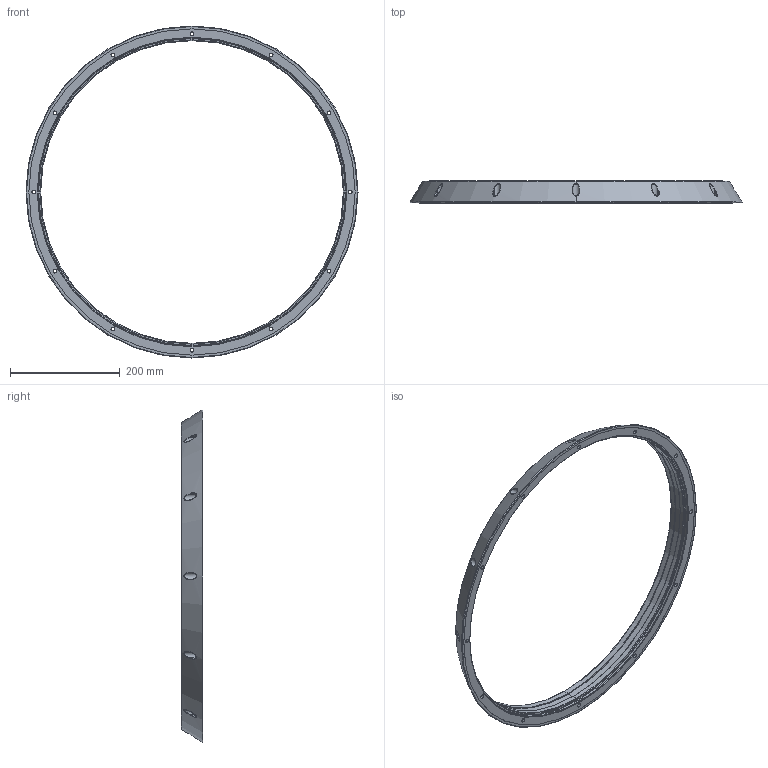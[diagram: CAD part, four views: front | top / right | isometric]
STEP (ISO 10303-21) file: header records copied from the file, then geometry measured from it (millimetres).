
FILE_DESCRIPTION(('CATIA V5 STEP Exchange','CAx-IF Rec.Pracs.--- Composite Materials ---3.4---2017-06-13'),'2;1');
FILE_NAME('C:\Users\PM610867\AppData\Local\ST-WORK_R32_PROD\Liasse-PDF\IEM_PEPSI_CEG_DEF_K_1229_213-SUPPORT_PEIGNE_TUBE_INTER_COTE_ELECTRODE_FIXE_-A.stp','2025-03-31T12:19:45+00:00',('none'),('none'),'CATIA Version 5-6 Release 2022 SP2','CATIA V5 STEP AP203 v2','none');
FILE_SCHEMA(('CONFIG_CONTROL_DESIGN'));
Length unit declared in the file: millimetre
Products named in the file (1): IEM PEPSI CEG DEF K 1229 213
Bounding box: 604.41 x 39.78 x 604.41 mm (x, y, z)
Volume: 958315.3 mm3; surface area: 212594.7 mm2
Topology: 1 solids, 1 shells, 127 faces, 284 edges, 172 vertices
Faces by surface type: cylinder 58, bspline 28, torus 20, plane 17, cone 4
Entity records: 9930 total; most frequent: CARTESIAN_POINT 7499, ORIENTED_EDGE 568, DIRECTION 294, EDGE_CURVE 284, AXIS2_PLACEMENT_3D 184, VERTEX_POINT 172, EDGE_LOOP 166, CIRCLE 136
